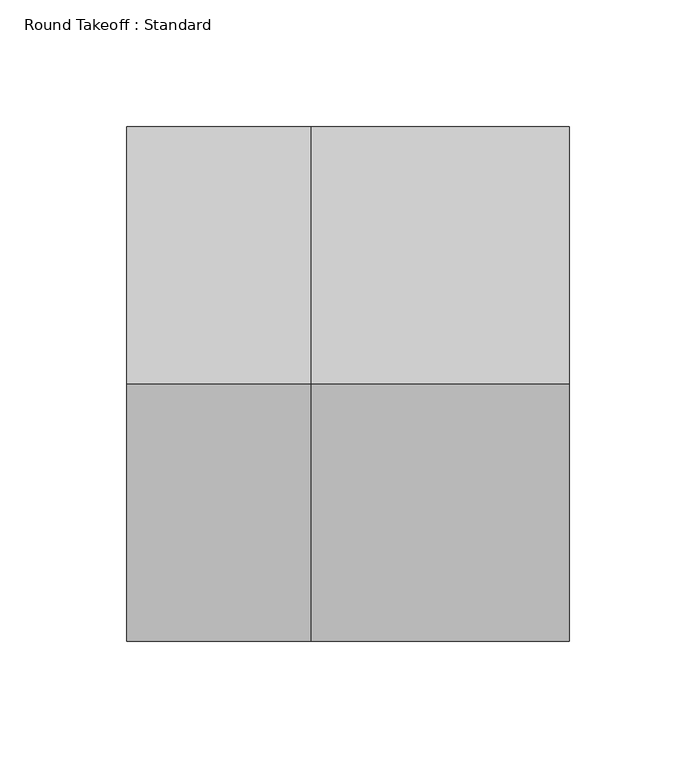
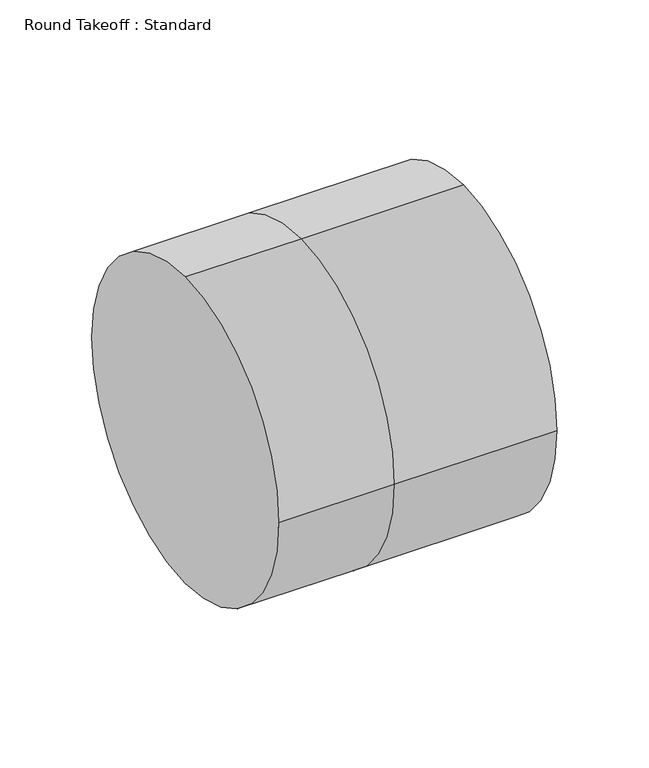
"""IFC4 building model written with IfcOpenShell, lengths in millimetres: duct fitting geometry, Round Takeoff : Standard."""

from ifc_helpers import new_model, si_unit, frame, origin, place, context, project, spatial, circle_curve, source, transform, mapped, element, save
from ifc_brep_helpers import plane_surface, cylinder_surface, advanced_brep


def round_takeoff_standard_8f6f248b(model_context):
    return source(origin(), model_context, "Body", "AdvancedBrep", [
        advanced_brep(
        [(101.8171378, 0.0, 101.6), (101.8171378, -101.6, 0.0), (101.8171378, 0.0, -101.6), (101.8171378, 101.6, 0.0), (0.0, 101.6, 0.0), (0.0, 0.0, 101.6), (0.0, 0.0, -101.6), (0.0, -101.6, 0.0), (-72.858865, 0.0, 101.6), (-72.858865, 101.6, 0.0), (-72.858865, 0.0, -101.6), (-72.858865, -101.6, 0.0)],
        [
            (0, 1, circle_curve(frame((101.8171378, 0.0, 0.0), z_axis=(1.0, 0.0, 0.0), x_axis=(0.0, 1.0, 0.0)), 101.6)),
            (1, 2, circle_curve(frame((101.8171378, 0.0, 0.0), z_axis=(1.0, 0.0, 0.0), x_axis=(0.0, 1.0, 0.0)), 101.6)),
            (2, 3, circle_curve(frame((101.8171378, 0.0, 0.0), z_axis=(1.0, 0.0, 0.0), x_axis=(0.0, 1.0, 0.0)), 101.6)),
            (3, 0, circle_curve(frame((101.8171378, 0.0, 0.0), z_axis=(1.0, 0.0, 0.0), x_axis=(0.0, 1.0, 0.0)), 101.6)),
            (3, 4),
            (4, 5, circle_curve(frame((0.0, 0.0, 0.0), z_axis=(1.0, 0.0, 0.0), x_axis=(0.0, 1.0, 0.0)), 101.6)),
            (5, 0),
            (2, 6),
            (6, 4, circle_curve(frame((0.0, 0.0, 0.0), z_axis=(1.0, 0.0, 0.0), x_axis=(0.0, 1.0, 0.0)), 101.6)),
            (1, 7),
            (7, 6, circle_curve(frame((0.0, 0.0, 0.0), z_axis=(1.0, 0.0, 0.0), x_axis=(0.0, 1.0, 0.0)), 101.6)),
            (5, 7, circle_curve(frame((0.0, 0.0, 0.0), z_axis=(1.0, 0.0, 0.0), x_axis=(0.0, 1.0, 0.0)), 101.6)),
            (8, 9, circle_curve(frame((-72.858865, 0.0, 0.0), z_axis=(-1.0, 0.0, 0.0), x_axis=(0.0, 1.0, 0.0)), 101.6)),
            (9, 10, circle_curve(frame((-72.858865, 0.0, 0.0), z_axis=(-1.0, 0.0, 0.0), x_axis=(0.0, 1.0, 0.0)), 101.6)),
            (10, 11, circle_curve(frame((-72.858865, 0.0, 0.0), z_axis=(-1.0, 0.0, 0.0), x_axis=(0.0, 1.0, 0.0)), 101.6)),
            (11, 8, circle_curve(frame((-72.858865, 0.0, 0.0), z_axis=(-1.0, 0.0, 0.0), x_axis=(0.0, 1.0, 0.0)), 101.6)),
            (8, 5),
            (4, 9),
            (6, 10),
            (7, 11),
        ],
        [
            plane_surface(frame((101.8171378, 0.0, 0.0), z_axis=(1.0, 0.0, 0.0), x_axis=(0.0, 0.0, 1.0))),
            cylinder_surface(frame((0.0, 0.0, 0.0), z_axis=(-1.0, 0.0, 0.0), x_axis=(0.0, 1.0, 0.0)), 101.6),
            plane_surface(frame((-72.858865, 0.0, 0.0), z_axis=(-1.0, 0.0, 0.0), x_axis=(0.0, 0.0, 1.0))),
            cylinder_surface(frame((-72.858865, 0.0, 0.0), z_axis=(-1.0, 0.0, 0.0), x_axis=(0.0, 1.0, 0.0)), 101.6),
        ],
        [
            (0, [[1, 2, 3, 4]]),
            (1, [[-4, 5, 6, 7]]),
            (1, [[-3, 8, 9, -5]]),
            (1, [[-2, 10, 11, -8]]),
            (1, [[-1, -7, 12, -10]]),
            (2, [[13, 14, 15, 16]]),
            (3, [[-13, 17, -6, 18]]),
            (3, [[-14, -18, -9, 19]]),
            (3, [[-15, -19, -11, 20]]),
            (3, [[-16, -20, -12, -17]]),
        ],
    ),
    ])


if __name__ == "__main__":
    model = new_model("IFC4")
    model_context = context("Model", 3, world=origin())
    ifc_project = project(units=[si_unit("LENGTHUNIT", "METRE", prefix="MILLI")], contexts=[model_context])
    site = spatial("IfcSite", under=ifc_project)
    building = spatial("IfcBuilding", under=site)
    placement = place(None, origin())
    round_takeoff_standard_shape = round_takeoff_standard_8f6f248b(model_context)
    element("IfcDuctFitting", 1, ObjectType="Round Takeoff : Standard", at=placement, inside=building, context=model_context, shape_type="MappedRepresentation", body=[
        mapped(round_takeoff_standard_shape, transform((0.0, 0.0, 0.0), x_axis=(1.0, 0.0, 0.0), y_axis=(0.0, 1.0, 0.0), z_axis=(0.0, 0.0, 1.0))),
    ])
    save(model, "model.ifc")
